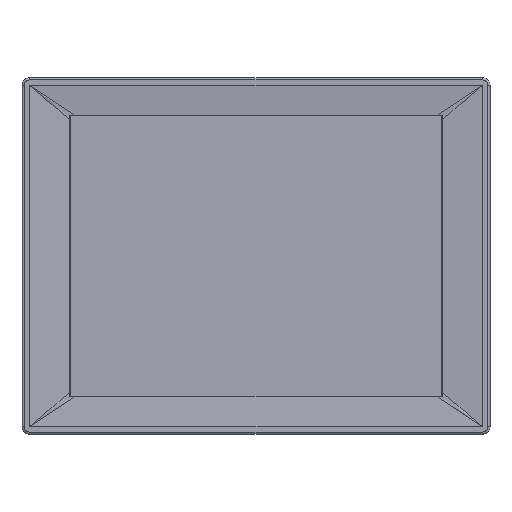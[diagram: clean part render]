
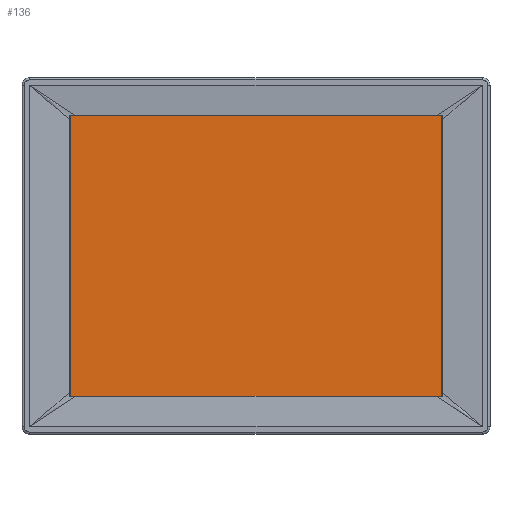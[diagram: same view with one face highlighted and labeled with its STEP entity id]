
A CAD part, top view. The second image highlights one B-rep face of the part: STEP entity #136.
In plain terms, the highlighted planar face has unit normal (0, 0, 1).
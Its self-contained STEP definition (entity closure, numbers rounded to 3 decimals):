
#17=DIRECTION('',(1.,0.,0.));
#18=VECTOR('',#17,10.551);
#19=CARTESIAN_POINT('',(-5.157,-4.035,0.547));
#20=LINE('',#19,#18);
#21=DIRECTION('',(0.,-1.,0.));
#22=VECTOR('',#21,8.031);
#23=CARTESIAN_POINT('',(-5.157,3.996,0.547));
#24=LINE('',#23,#22);
#25=DIRECTION('',(-1.,0.,0.));
#26=VECTOR('',#25,10.551);
#27=CARTESIAN_POINT('',(5.394,3.996,0.547));
#28=LINE('',#27,#26);
#29=DIRECTION('',(0.,1.,0.));
#30=VECTOR('',#29,8.031);
#31=CARTESIAN_POINT('',(5.394,-4.035,0.547));
#32=LINE('',#31,#30);
#50=CARTESIAN_POINT('',(5.394,3.996,0.547));
#52=VERTEX_POINT('',#50);
#55=CARTESIAN_POINT('',(-5.157,3.996,0.547));
#56=VERTEX_POINT('',#55);
#61=CARTESIAN_POINT('',(-5.157,-4.035,0.547));
#62=VERTEX_POINT('',#61);
#63=CARTESIAN_POINT('',(5.394,-4.035,0.547));
#64=VERTEX_POINT('',#63);
#125=CARTESIAN_POINT('',(0.118,-0.02,
0.547));
#126=DIRECTION('',(0.,0.,1.));
#127=DIRECTION('',(-1.,0.,0.));
#128=AXIS2_PLACEMENT_3D('',#125,#126,#127);
#129=PLANE('',#128);
#130=ORIENTED_EDGE('',*,*,#103,.F.);
#131=ORIENTED_EDGE('',*,*,#117,.F.);
#132=ORIENTED_EDGE('',*,*,#72,.F.);
#133=ORIENTED_EDGE('',*,*,#88,.F.);
#134=EDGE_LOOP('',(#130,#131,#132,#133));
#135=FACE_OUTER_BOUND('',#134,.F.);
#136=ADVANCED_FACE('',(#135),#129,.T.);
#72=EDGE_CURVE('',#52,#56,#28,.T.);
#88=EDGE_CURVE('',#64,#52,#32,.T.);
#103=EDGE_CURVE('',#62,#64,#20,.T.);
#117=EDGE_CURVE('',#56,#62,#24,.T.);
